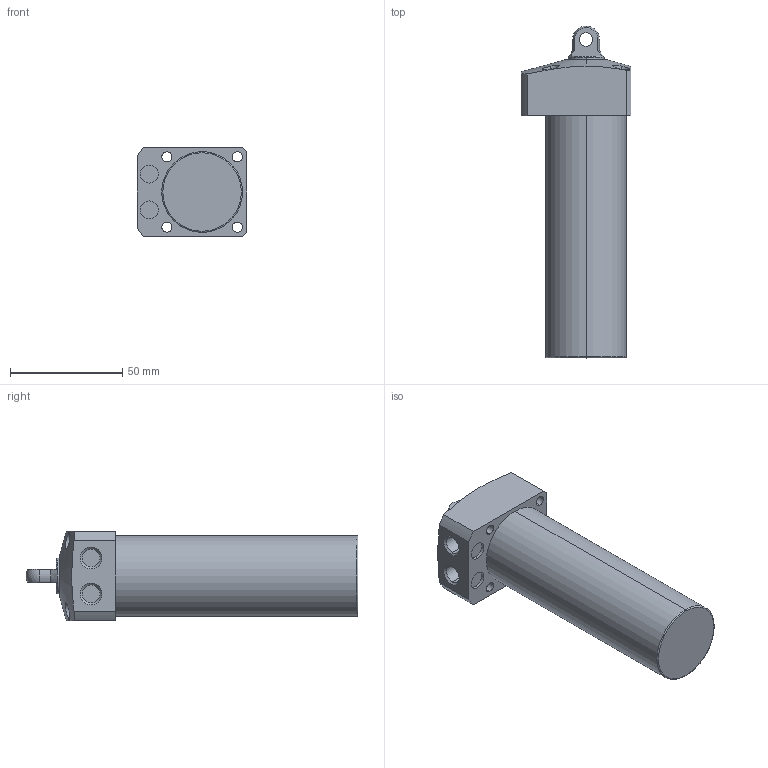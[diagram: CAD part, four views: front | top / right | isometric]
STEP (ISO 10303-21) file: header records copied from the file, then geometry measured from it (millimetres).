
FILE_DESCRIPTION (( 'STEP AP203' ), '1' );
FILE_NAME ('CLL036-CP-085.STEP', '2017-05-17T06:26:20', ( '' ), ( '' ), 'SwSTEP 2.0', 'SolidWorks 2015', '' );
FILE_SCHEMA (( 'CONFIG_CONTROL_DESIGN' ));
Length unit declared in the file: millimetre
Products named in the file (1): CLL036-CP-085
Bounding box: 49 x 148 x 40 mm (x, y, z)
Volume: 151319.3 mm3; surface area: 22262.3 mm2
Topology: 1 solids, 1 shells, 67 faces, 162 edges, 105 vertices
Faces by surface type: cylinder 34, plane 21, cone 8, sphere 2, torus 2
Entity records: 2347 total; most frequent: CARTESIAN_POINT 663, DIRECTION 354, ORIENTED_EDGE 316, EDGE_CURVE 158, AXIS2_PLACEMENT_3D 148, VERTEX_POINT 103, EDGE_LOOP 87, CIRCLE 80
